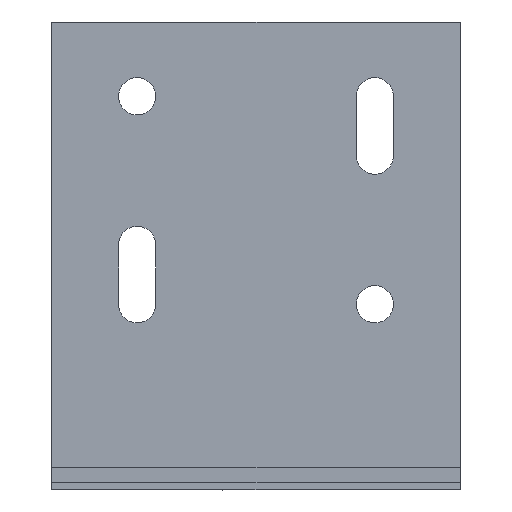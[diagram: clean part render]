
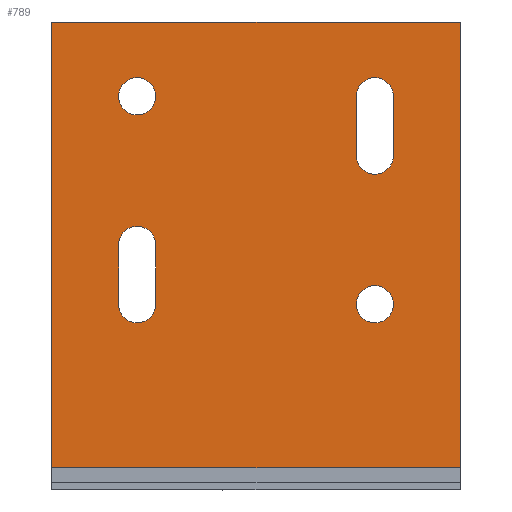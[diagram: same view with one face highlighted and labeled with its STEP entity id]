
A CAD part, front view. The second image highlights one B-rep face of the part: STEP entity #789.
In plain terms, the highlighted planar face has unit normal (0, -1, 0).
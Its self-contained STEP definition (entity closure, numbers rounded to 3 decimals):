
#789=ADVANCED_FACE('',(#1447,#1448,#1449,#1450,#1451),#1452,.T.);
#1447=FACE_BOUND('',#2387,.T.);
#1448=FACE_BOUND('',#2388,.T.);
#1449=FACE_BOUND('',#2389,.T.);
#1450=FACE_BOUND('',#2390,.T.);
#1451=FACE_OUTER_BOUND('',#2391,.T.);
#1452=PLANE('',#2392);
#2387=EDGE_LOOP('',(#3067,#3068,#3069,#3070));
#2388=EDGE_LOOP('',(#3071,#3072));
#2389=EDGE_LOOP('',(#3073,#3074));
#2390=EDGE_LOOP('',(#3075,#3076,#3077,#3078));
#2391=EDGE_LOOP('',(#3079,#3080,#3081,#3082));
#2392=AXIS2_PLACEMENT_3D('',#3083,#3084,#3085);
#3067=ORIENTED_EDGE('',*,*,#4162,.T.);
#3068=ORIENTED_EDGE('',*,*,#4158,.T.);
#3069=ORIENTED_EDGE('',*,*,#4154,.T.);
#3070=ORIENTED_EDGE('',*,*,#4166,.T.);
#3071=ORIENTED_EDGE('',*,*,#4100,.T.);
#3072=ORIENTED_EDGE('',*,*,#4169,.T.);
#3073=ORIENTED_EDGE('',*,*,#4095,.T.);
#3074=ORIENTED_EDGE('',*,*,#4172,.T.);
#3075=ORIENTED_EDGE('',*,*,#4184,.T.);
#3076=ORIENTED_EDGE('',*,*,#4180,.T.);
#3077=ORIENTED_EDGE('',*,*,#4176,.T.);
#3078=ORIENTED_EDGE('',*,*,#4188,.T.);
#3079=ORIENTED_EDGE('',*,*,#4207,.T.);
#3080=ORIENTED_EDGE('',*,*,#4205,.T.);
#3081=ORIENTED_EDGE('',*,*,#4208,.F.);
#3082=ORIENTED_EDGE('',*,*,#4209,.F.);
#3083=CARTESIAN_POINT('',(27.5,-2.0,3.0));
#3084=DIRECTION('',(0.,-1.0,0.));
#3085=DIRECTION('',(0.0,0.,1.0));
#4095=EDGE_CURVE('',#4728,#4725,#4729,.T.);
#4100=EDGE_CURVE('',#4737,#4734,#4738,.T.);
#4154=EDGE_CURVE('',#4820,#4818,#4821,.T.);
#4158=EDGE_CURVE('',#4826,#4820,#4827,.T.);
#4162=EDGE_CURVE('',#4832,#4826,#4833,.T.);
#4166=EDGE_CURVE('',#4818,#4832,#4837,.T.);
#4169=EDGE_CURVE('',#4734,#4737,#4840,.T.);
#4172=EDGE_CURVE('',#4725,#4728,#4843,.T.);
#4176=EDGE_CURVE('',#4850,#4848,#4851,.T.);
#4180=EDGE_CURVE('',#4856,#4850,#4857,.T.);
#4184=EDGE_CURVE('',#4862,#4856,#4863,.T.);
#4188=EDGE_CURVE('',#4848,#4862,#4867,.T.);
#4205=EDGE_CURVE('',#4890,#4892,#4894,.T.);
#4207=EDGE_CURVE('',#4896,#4890,#4897,.T.);
#4208=EDGE_CURVE('',#4898,#4892,#4899,.T.);
#4209=EDGE_CURVE('',#4896,#4898,#4900,.T.);
#4725=VERTEX_POINT('',#5250);
#4728=VERTEX_POINT('',#5254);
#4729=CIRCLE('',#5255,2.5);
#4734=VERTEX_POINT('',#5261);
#4737=VERTEX_POINT('',#5265);
#4738=CIRCLE('',#5266,2.5);
#4818=VERTEX_POINT('',#5372);
#4820=VERTEX_POINT('',#5375);
#4821=LINE('',#5376,#5377);
#4826=VERTEX_POINT('',#5383);
#4827=CIRCLE('',#5384,2.5);
#4832=VERTEX_POINT('',#5391);
#4833=LINE('',#5392,#5393);
#4837=CIRCLE('',#5398,2.5);
#4840=CIRCLE('',#5401,2.5);
#4843=CIRCLE('',#5404,2.5);
#4848=VERTEX_POINT('',#5410);
#4850=VERTEX_POINT('',#5413);
#4851=LINE('',#5414,#5415);
#4856=VERTEX_POINT('',#5421);
#4857=CIRCLE('',#5422,2.5);
#4862=VERTEX_POINT('',#5429);
#4863=LINE('',#5430,#5431);
#4867=CIRCLE('',#5436,2.5);
#4890=VERTEX_POINT('',#5469);
#4892=VERTEX_POINT('',#5472);
#4894=LINE('',#5475,#5476);
#4896=VERTEX_POINT('',#5478);
#4897=LINE('',#5479,#5480);
#4898=VERTEX_POINT('',#5481);
#4899=LINE('',#5482,#5483);
#4900=LINE('',#5484,#5485);
#5250=CARTESIAN_POINT('',(13.5,-2.0,25.0));
#5254=CARTESIAN_POINT('',(18.5,-2.0,25.0));
#5255=AXIS2_PLACEMENT_3D('',#5943,#5944,#5945);
#5261=CARTESIAN_POINT('',(-18.5,-2.0,53.0));
#5265=CARTESIAN_POINT('',(-13.5,-2.0,53.0));
#5266=AXIS2_PLACEMENT_3D('',#5951,#5952,#5953);
#5372=CARTESIAN_POINT('',(13.5,-2.0,53.0));
#5375=CARTESIAN_POINT('',(13.5,-2.0,45.0));
#5376=CARTESIAN_POINT('',(13.5,-2.0,28.0));
#5377=VECTOR('',#6020,1.0);
#5383=CARTESIAN_POINT('',(18.5,-2.0,45.0));
#5384=AXIS2_PLACEMENT_3D('',#6025,#6026,#6027);
#5391=CARTESIAN_POINT('',(18.5,-2.0,53.0));
#5392=CARTESIAN_POINT('',(18.5,-2.0,24.0));
#5393=VECTOR('',#6030,1.0);
#5398=AXIS2_PLACEMENT_3D('',#6035,#6036,#6037);
#5401=AXIS2_PLACEMENT_3D('',#6041,#6042,#6043);
#5404=AXIS2_PLACEMENT_3D('',#6047,#6048,#6049);
#5410=CARTESIAN_POINT('',(-18.5,-2.0,33.0));
#5413=CARTESIAN_POINT('',(-18.5,-2.0,25.0));
#5414=CARTESIAN_POINT('',(-18.5,-2.0,18.0));
#5415=VECTOR('',#6052,1.0);
#5421=CARTESIAN_POINT('',(-13.5,-2.0,25.0));
#5422=AXIS2_PLACEMENT_3D('',#6057,#6058,#6059);
#5429=CARTESIAN_POINT('',(-13.5,-2.0,33.0));
#5430=CARTESIAN_POINT('',(-13.5,-2.0,14.0));
#5431=VECTOR('',#6062,1.0);
#5436=AXIS2_PLACEMENT_3D('',#6067,#6068,#6069);
#5469=CARTESIAN_POINT('',(27.5,-2.0,63.0));
#5472=CARTESIAN_POINT('',(-27.5,-2.0,63.0));
#5475=CARTESIAN_POINT('',(27.5,-2.0,63.0));
#5476=VECTOR('',#6082,1.0);
#5478=CARTESIAN_POINT('',(27.5,-2.0,3.0));
#5479=CARTESIAN_POINT('',(27.5,-2.0,3.0));
#5480=VECTOR('',#6083,1.0);
#5481=CARTESIAN_POINT('',(-27.5,-2.0,3.0));
#5482=CARTESIAN_POINT('',(-27.5,-2.0,3.0));
#5483=VECTOR('',#6084,1.0);
#5484=CARTESIAN_POINT('',(27.5,-2.0,3.0));
#5485=VECTOR('',#6085,1.0);
#5943=CARTESIAN_POINT('',(16.0,-2.0,25.0));
#5944=DIRECTION('',(0.0,1.0,0.));
#5945=DIRECTION('',(-1.0,0.,0.));
#5951=CARTESIAN_POINT('',(-16.0,-2.0,53.0));
#5952=DIRECTION('',(0.0,1.0,0.));
#5953=DIRECTION('',(-1.0,0.,0.));
#6020=DIRECTION('',(0.0,0.,1.0));
#6025=CARTESIAN_POINT('',(16.0,-2.0,45.0));
#6026=DIRECTION('',(0.0,1.0,0.));
#6027=DIRECTION('',(-1.0,0.,0.));
#6030=DIRECTION('',(0.0,0.,-1.0));
#6035=CARTESIAN_POINT('',(16.0,-2.0,53.0));
#6036=DIRECTION('',(0.0,1.0,0.));
#6037=DIRECTION('',(1.0,0.,0.));
#6041=CARTESIAN_POINT('',(-16.0,-2.0,53.0));
#6042=DIRECTION('',(0.0,1.0,0.));
#6043=DIRECTION('',(-1.0,0.,0.));
#6047=CARTESIAN_POINT('',(16.0,-2.0,25.0));
#6048=DIRECTION('',(0.0,1.0,0.));
#6049=DIRECTION('',(-1.0,0.,0.));
#6052=DIRECTION('',(0.0,0.,1.0));
#6057=CARTESIAN_POINT('',(-16.0,-2.0,25.0));
#6058=DIRECTION('',(0.0,1.0,0.));
#6059=DIRECTION('',(1.0,0.,0.));
#6062=DIRECTION('',(0.0,0.,-1.0));
#6067=CARTESIAN_POINT('',(-16.0,-2.0,33.0));
#6068=DIRECTION('',(0.0,1.0,0.));
#6069=DIRECTION('',(-1.0,0.,0.));
#6082=DIRECTION('',(-1.0,0.,0.));
#6083=DIRECTION('',(0.0,0.,1.0));
#6084=DIRECTION('',(0.0,0.,1.0));
#6085=DIRECTION('',(-1.0,0.,0.));
